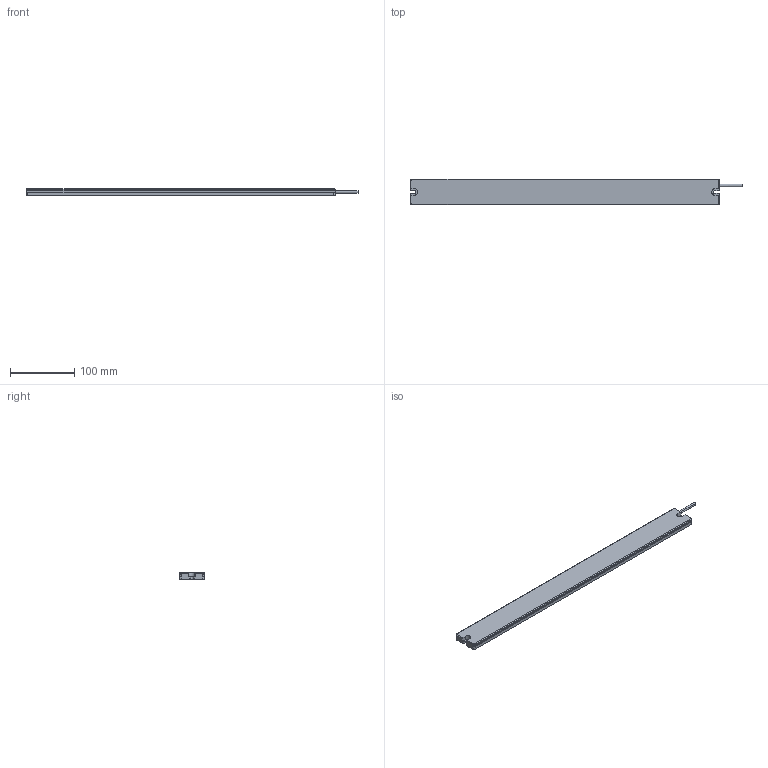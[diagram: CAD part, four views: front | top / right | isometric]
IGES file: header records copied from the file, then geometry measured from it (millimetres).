
Start section: IMSI TurboCAD v14.0
Global section: author: NULL; organization: NULL; date: 20190523.100203; units: millimetre
Bounding box: 515 x 40 x 10 mm (x, y, z)
Surface area: 51687.3 mm2 (no closed solid volume)
Topology: 0 solids, 0 shells, 71 faces, 386 edges, 386 vertices
Faces by surface type: revolution 38, extrusion 33
